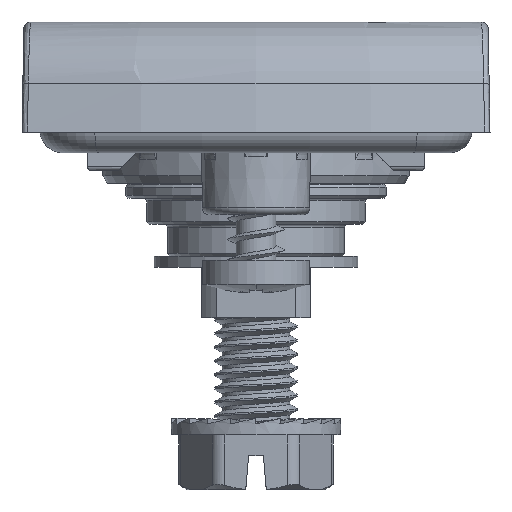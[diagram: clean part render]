
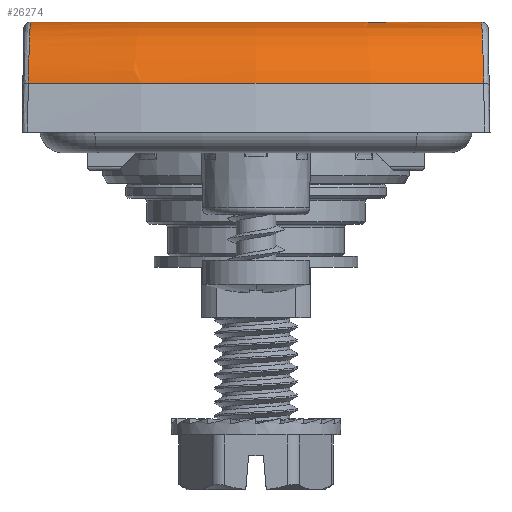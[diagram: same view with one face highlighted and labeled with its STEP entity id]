
A CAD part, front view. The second image highlights one B-rep face of the part: STEP entity #26274.
In plain terms, the highlighted toroidal (fillet/blend) face has major radius 73.252 mm and minor radius 6 mm.
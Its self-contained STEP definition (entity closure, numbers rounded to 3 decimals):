
#261 = DIRECTION ( 'NONE',  ( -1., 0., 0. ) ) ;
#1929 = DIRECTION ( 'NONE',  ( 1., 0., 0. ) ) ;
#2420 = CARTESIAN_POINT ( 'NONE',  ( -16.416, -25.664, 7.584 ) ) ;
#3370 = CARTESIAN_POINT ( 'NONE',  ( 0., 48., 3.553 ) ) ;
#4063 = CARTESIAN_POINT ( 'NONE',  ( 16.514, -28.849, 4.794 ) ) ;
#4514 = CARTESIAN_POINT ( 'NONE',  ( 16.369, -23.4, 8. ) ) ;
#5109 = EDGE_LOOP ( 'NONE', ( #18326, #40965, #8053, #21471 ) ) ;
#5889 = VERTEX_POINT ( 'NONE', #44167 ) ;
#6199 = AXIS2_PLACEMENT_3D ( 'NONE', #10911, #28428, #1929 ) ;
#7846 = CARTESIAN_POINT ( 'NONE',  ( 16.469, -27.643, 6.371 ) ) ;
#8053 = ORIENTED_EDGE ( 'NONE', *, *, #28183, .F. ) ;
#8307 = CARTESIAN_POINT ( 'NONE',  ( 16.484, -28.099, 5.895 ) ) ;
#9080 = CARTESIAN_POINT ( 'NONE',  ( -16.491, -28.278, 5.631 ) ) ;
#9317 = CARTESIAN_POINT ( 'NONE',  ( -16.506, -28.652, 5.085 ) ) ;
#9434 = DIRECTION ( 'NONE',  ( 0., 0., 1. ) ) ;
#10911 = CARTESIAN_POINT ( 'NONE',  ( 0., 48., 2. ) ) ;
#11966 = CARTESIAN_POINT ( 'NONE',  ( -16.541, -29.298, 3.553 ) ) ;
#13162 = CARTESIAN_POINT ( 'NONE',  ( -16.423, -25.97, 7.455 ) ) ;
#14347 = DIRECTION ( 'NONE',  ( 0., 0., -1. ) ) ;
#16509 = CARTESIAN_POINT ( 'NONE',  ( -16.381, -24.067, 8. ) ) ;
#18326 = ORIENTED_EDGE ( 'NONE', *, *, #31630, .F. ) ;
#18439 = CARTESIAN_POINT ( 'NONE',  ( 16.438, -26.578, 7.17 ) ) ;
#18880 = CARTESIAN_POINT ( 'NONE',  ( 16.423, -25.993, 7.474 ) ) ;
#20614 = CARTESIAN_POINT ( 'NONE',  ( -16.469, -27.615, 6.36 ) ) ;
#20715 = CARTESIAN_POINT ( 'NONE',  ( 0., 48., 8. ) ) ;
#20837 = CARTESIAN_POINT ( 'NONE',  ( -16.369, -23.4, 8. ) ) ;
#21471 = ORIENTED_EDGE ( 'NONE', *, *, #35015, .T. ) ;
#22259 = CARTESIAN_POINT ( 'NONE',  ( 16.528, -29.124, 4.197 ) ) ;
#22704 = CARTESIAN_POINT ( 'NONE',  ( 16.395, -24.731, 7.893 ) ) ;
#23136 = CARTESIAN_POINT ( 'NONE',  ( -16.369, -23.4, 8. ) ) ;
#23733 = CARTESIAN_POINT ( 'NONE',  ( -16.535, -29.211, 3.875 ) ) ;
#24171 = VERTEX_POINT ( 'NONE', #11966 ) ;
#24192 = CARTESIAN_POINT ( 'NONE',  ( -16.541, -29.298, 3.553 ) ) ;
#24675 = CARTESIAN_POINT ( 'NONE',  ( -16.484, -28.07, 5.886 ) ) ;
#26274 = ADVANCED_FACE ( 'NONE', ( #27542 ), #32216, .T. ) ;
#26614 = B_SPLINE_CURVE_WITH_KNOTS ( 'NONE', 3,
 ( #20837, #16509, #31826, #2420, #13162, #42103, #38977, #46164, #20614, #24675, #9080, #9317, #35626, #30880, #23733, #24192 ),
 .UNSPECIFIED., .F., .F.,
 ( 4, 2, 2, 2, 2, 2, 2, 4 ),
 ( 0., 0.002, 0.003, 0.004, 0.005, 0.006, 0.007, 0.008 ),
 .UNSPECIFIED. ) ;
#26955 = AXIS2_PLACEMENT_3D ( 'NONE', #3370, #14347, #261 ) ;
#27542 = FACE_OUTER_BOUND ( 'NONE', #5109, .T. ) ;
#28183 = EDGE_CURVE ( 'NONE', #43039, #24171, #37630, .T. ) ;
#28428 = DIRECTION ( 'NONE',  ( 0., 0., 1. ) ) ;
#30122 = CARTESIAN_POINT ( 'NONE',  ( 16.541, -29.298, 3.553 ) ) ;
#30880 = CARTESIAN_POINT ( 'NONE',  ( -16.528, -29.097, 4.189 ) ) ;
#31380 = CARTESIAN_POINT ( 'NONE',  ( 16.541, -29.298, 3.553 ) ) ;
#31630 = EDGE_CURVE ( 'NONE', #42368, #5889, #43056, .T. ) ;
#31826 = CARTESIAN_POINT ( 'NONE',  ( -16.394, -24.716, 7.896 ) ) ;
#32216 = TOROIDAL_SURFACE ( 'NONE', #6199, 73.252, 6. ) ;
#34722 = B_SPLINE_CURVE_WITH_KNOTS ( 'NONE', 3,
 ( #30122, #22259, #4063, #8307, #7846, #18439, #18880, #22704, #40642, #4514 ),
 .UNSPECIFIED., .F., .F.,
 ( 4, 2, 2, 2, 4 ),
 ( 0., 0.002, 0.004, 0.006, 0.008 ),
 .UNSPECIFIED. ) ;
#35015 = EDGE_CURVE ( 'NONE', #43039, #5889, #34722, .T. ) ;
#35626 = CARTESIAN_POINT ( 'NONE',  ( -16.514, -28.818, 4.793 ) ) ;
#36940 = AXIS2_PLACEMENT_3D ( 'NONE', #20715, #9434, #42446 ) ;
#37630 = CIRCLE ( 'NONE', #26955, 79.048 ) ;
#38977 = CARTESIAN_POINT ( 'NONE',  ( -16.446, -26.832, 6.978 ) ) ;
#40528 = EDGE_CURVE ( 'NONE', #42368, #24171, #26614, .T. ) ;
#40642 = CARTESIAN_POINT ( 'NONE',  ( 16.381, -24.067, 8. ) ) ;
#40965 = ORIENTED_EDGE ( 'NONE', *, *, #40528, .T. ) ;
#42103 = CARTESIAN_POINT ( 'NONE',  ( -16.438, -26.553, 7.152 ) ) ;
#42368 = VERTEX_POINT ( 'NONE', #23136 ) ;
#42446 = DIRECTION ( 'NONE',  ( 1., 0., 0. ) ) ;
#43039 = VERTEX_POINT ( 'NONE', #31380 ) ;
#43056 = CIRCLE ( 'NONE', #36940, 73.252 ) ;
#44167 = CARTESIAN_POINT ( 'NONE',  ( 16.369, -23.4, 8. ) ) ;
#46164 = CARTESIAN_POINT ( 'NONE',  ( -16.461, -27.364, 6.581 ) ) ;
